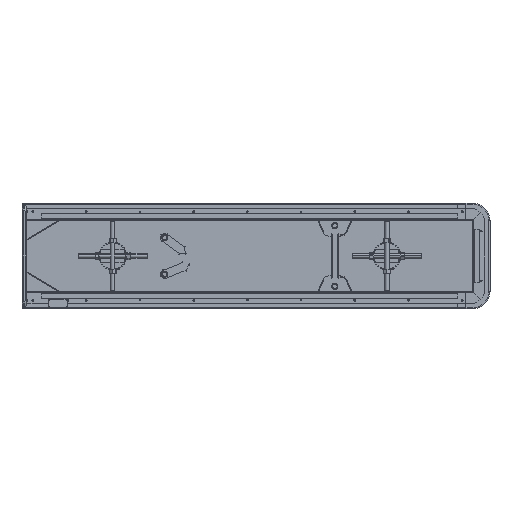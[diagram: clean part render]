
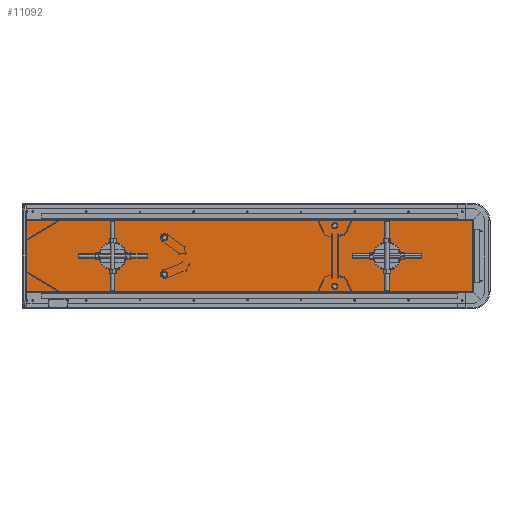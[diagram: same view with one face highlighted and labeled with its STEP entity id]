
A CAD part, front view. The second image highlights one B-rep face of the part: STEP entity #11092.
In plain terms, the highlighted planar face has unit normal (0.013, -1, 0).
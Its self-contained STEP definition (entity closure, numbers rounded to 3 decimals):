
#532 = CARTESIAN_POINT ( 'NONE',  ( -642.077, 523.784, -101.5 ) ) ;
#632 = PLANE ( 'NONE',  #42649 ) ;
#637 = EDGE_LOOP ( 'NONE', ( #17538, #26888 ) ) ;
#1235 = DIRECTION ( 'NONE',  ( 1., 0.013, 0. ) ) ;
#1352 = CIRCLE ( 'NONE', #2856, 4.05 ) ;
#2103 = ORIENTED_EDGE ( 'NONE', *, *, #43798, .T. ) ;
#2333 = DIRECTION ( 'NONE',  ( 1., 0.013, 0. ) ) ;
#2856 = AXIS2_PLACEMENT_3D ( 'NONE', #19795, #46439, #27401 ) ;
#2991 = VERTEX_POINT ( 'NONE', #47932 ) ;
#3929 = DIRECTION ( 'NONE',  ( -0.013, 1., 0. ) ) ;
#3956 = CARTESIAN_POINT ( 'NONE',  ( 244.852, 535.011, 87.5 ) ) ;
#4462 = DIRECTION ( 'NONE',  ( -0.013, 1., 0. ) ) ;
#4916 = CARTESIAN_POINT ( 'NONE',  ( -645.077, 523.746, -101.5 ) ) ;
#5473 = AXIS2_PLACEMENT_3D ( 'NONE', #28384, #39715, #43871 ) ;
#5496 = EDGE_CURVE ( 'NONE', #23423, #28040, #14848, .T. ) ;
#6643 = CARTESIAN_POINT ( 'NONE',  ( 244.852, 535.011, -87.5 ) ) ;
#7291 = VERTEX_POINT ( 'NONE', #532 ) ;
#7546 = VERTEX_POINT ( 'NONE', #8515 ) ;
#7675 = EDGE_LOOP ( 'NONE', ( #8060, #2103 ) ) ;
#7796 = DIRECTION ( 'NONE',  ( 1., 0.013, 0. ) ) ;
#7854 = VECTOR ( 'NONE', #1235, 1000. ) ;
#8060 = ORIENTED_EDGE ( 'NONE', *, *, #15563, .T. ) ;
#8224 = LINE ( 'NONE', #24990, #21307 ) ;
#8515 = CARTESIAN_POINT ( 'NONE',  ( -249.159, 528.758, 52.5 ) ) ;
#8606 = CIRCLE ( 'NONE', #39370, 4.05 ) ;
#8722 = EDGE_CURVE ( 'NONE', #7291, #48804, #8224, .T. ) ;
#9008 = CIRCLE ( 'NONE', #35278, 4.05 ) ;
#9199 = AXIS2_PLACEMENT_3D ( 'NONE', #23053, #3929, #7796 ) ;
#9520 = CARTESIAN_POINT ( 'NONE',  ( -241.059, 528.86, 52.5 ) ) ;
#10164 = EDGE_CURVE ( 'NONE', #19739, #2991, #38364, .T. ) ;
#10849 = VERTEX_POINT ( 'NONE', #31687 ) ;
#11092 = ADVANCED_FACE ( 'NONE', ( #13755, #34039, #20315, #31016, #17918 ), #632, .T. ) ;
#11096 = DIRECTION ( 'NONE',  ( 1., 0.013, 0. ) ) ;
#12314 = CARTESIAN_POINT ( 'NONE',  ( -0.379, 531.907, 0. ) ) ;
#12404 = EDGE_CURVE ( 'NONE', #10849, #30822, #28697, .T. ) ;
#12547 = AXIS2_PLACEMENT_3D ( 'NONE', #41202, #29560, #33737 ) ;
#12853 = CARTESIAN_POINT ( 'NONE',  ( 641.32, 540.03, -101.5 ) ) ;
#13350 = CIRCLE ( 'NONE', #5473, 4.05 ) ;
#13755 = FACE_BOUND ( 'NONE', #7675, .T. ) ;
#14123 = EDGE_CURVE ( 'NONE', #7546, #20640, #8606, .T. ) ;
#14323 = CARTESIAN_POINT ( 'NONE',  ( -245.109, 528.809, 52.5 ) ) ;
#14523 = VERTEX_POINT ( 'NONE', #46789 ) ;
#14848 = LINE ( 'NONE', #45238, #30964 ) ;
#14996 = EDGE_CURVE ( 'NONE', #7291, #23423, #17953, .T. ) ;
#15563 = EDGE_CURVE ( 'NONE', #24006, #14523, #9008, .T. ) ;
#16136 = DIRECTION ( 'NONE',  ( -1., -0.013, 0. ) ) ;
#16145 = DIRECTION ( 'NONE',  ( 0.013, -1., 0. ) ) ;
#16359 = EDGE_CURVE ( 'NONE', #28040, #48804, #25591, .T. ) ;
#16922 = EDGE_LOOP ( 'NONE', ( #36766, #25861 ) ) ;
#17506 = DIRECTION ( 'NONE',  ( -0.013, 1., 0. ) ) ;
#17538 = ORIENTED_EDGE ( 'NONE', *, *, #12404, .T. ) ;
#17677 = ORIENTED_EDGE ( 'NONE', *, *, #14996, .T. ) ;
#17710 = AXIS2_PLACEMENT_3D ( 'NONE', #26037, #41236, #11096 ) ;
#17918 = FACE_OUTER_BOUND ( 'NONE', #21699, .T. ) ;
#17953 = LINE ( 'NONE', #4916, #7854 ) ;
#19739 = VERTEX_POINT ( 'NONE', #38651 ) ;
#19795 = CARTESIAN_POINT ( 'NONE',  ( -245.109, 528.809, -52.5 ) ) ;
#20315 = FACE_BOUND ( 'NONE', #21166, .T. ) ;
#20640 = VERTEX_POINT ( 'NONE', #9520 ) ;
#20836 = CARTESIAN_POINT ( 'NONE',  ( -642.077, 523.784, 101.5 ) ) ;
#21166 = EDGE_LOOP ( 'NONE', ( #35290, #31903 ) ) ;
#21307 = VECTOR ( 'NONE', #47643, 1000. ) ;
#21699 = EDGE_LOOP ( 'NONE', ( #26102, #25088, #17677, #31999 ) ) ;
#21770 = DIRECTION ( 'NONE',  ( 1., 0.013, 0. ) ) ;
#22107 = DIRECTION ( 'NONE',  ( 0., 0., 1. ) ) ;
#23053 = CARTESIAN_POINT ( 'NONE',  ( -245.109, 528.809, 52.5 ) ) ;
#23113 = CARTESIAN_POINT ( 'NONE',  ( 642.249, 540.042, 101.5 ) ) ;
#23423 = VERTEX_POINT ( 'NONE', #12853 ) ;
#24006 = VERTEX_POINT ( 'NONE', #43872 ) ;
#24990 = CARTESIAN_POINT ( 'NONE',  ( -642.077, 523.784, -101.5 ) ) ;
#25088 = ORIENTED_EDGE ( 'NONE', *, *, #8722, .F. ) ;
#25591 = LINE ( 'NONE', #23113, #47088 ) ;
#25861 = ORIENTED_EDGE ( 'NONE', *, *, #14123, .T. ) ;
#26037 = CARTESIAN_POINT ( 'NONE',  ( -245.109, 528.809, -52.5 ) ) ;
#26102 = ORIENTED_EDGE ( 'NONE', *, *, #16359, .T. ) ;
#26888 = ORIENTED_EDGE ( 'NONE', *, *, #35171, .T. ) ;
#27103 = CARTESIAN_POINT ( 'NONE',  ( 240.802, 534.96, 87.5 ) ) ;
#27267 = DIRECTION ( 'NONE',  ( 0., 0., 1. ) ) ;
#27379 = AXIS2_PLACEMENT_3D ( 'NONE', #3956, #4462, #34614 ) ;
#27401 = DIRECTION ( 'NONE',  ( 1., 0.013, 0. ) ) ;
#28040 = VERTEX_POINT ( 'NONE', #46375 ) ;
#28384 = CARTESIAN_POINT ( 'NONE',  ( 244.852, 535.011, -87.5 ) ) ;
#28446 = EDGE_CURVE ( 'NONE', #2991, #19739, #1352, .T. ) ;
#28697 = CIRCLE ( 'NONE', #27379, 4.05 ) ;
#29560 = DIRECTION ( 'NONE',  ( -0.013, 1., 0. ) ) ;
#29595 = CIRCLE ( 'NONE', #9199, 4.05 ) ;
#30822 = VERTEX_POINT ( 'NONE', #27103 ) ;
#30964 = VECTOR ( 'NONE', #22107, 1000. ) ;
#31016 = FACE_BOUND ( 'NONE', #16922, .T. ) ;
#31687 = CARTESIAN_POINT ( 'NONE',  ( 248.901, 535.063, 87.5 ) ) ;
#31903 = ORIENTED_EDGE ( 'NONE', *, *, #10164, .T. ) ;
#31999 = ORIENTED_EDGE ( 'NONE', *, *, #5496, .T. ) ;
#32712 = EDGE_CURVE ( 'NONE', #20640, #7546, #29595, .T. ) ;
#33737 = DIRECTION ( 'NONE',  ( 1., 0.013, 0. ) ) ;
#34039 = FACE_BOUND ( 'NONE', #637, .T. ) ;
#34614 = DIRECTION ( 'NONE',  ( 1., 0.013, 0. ) ) ;
#35171 = EDGE_CURVE ( 'NONE', #30822, #10849, #49381, .T. ) ;
#35278 = AXIS2_PLACEMENT_3D ( 'NONE', #6643, #44717, #21770 ) ;
#35290 = ORIENTED_EDGE ( 'NONE', *, *, #28446, .T. ) ;
#36766 = ORIENTED_EDGE ( 'NONE', *, *, #32712, .T. ) ;
#38364 = CIRCLE ( 'NONE', #17710, 4.05 ) ;
#38651 = CARTESIAN_POINT ( 'NONE',  ( -249.159, 528.758, -52.5 ) ) ;
#39370 = AXIS2_PLACEMENT_3D ( 'NONE', #14323, #17506, #2333 ) ;
#39715 = DIRECTION ( 'NONE',  ( -0.013, 1., 0. ) ) ;
#41202 = CARTESIAN_POINT ( 'NONE',  ( 244.852, 535.011, 87.5 ) ) ;
#41236 = DIRECTION ( 'NONE',  ( -0.013, 1., 0. ) ) ;
#42649 = AXIS2_PLACEMENT_3D ( 'NONE', #12314, #16145, #27267 ) ;
#43798 = EDGE_CURVE ( 'NONE', #14523, #24006, #13350, .T. ) ;
#43871 = DIRECTION ( 'NONE',  ( 1., 0.013, 0. ) ) ;
#43872 = CARTESIAN_POINT ( 'NONE',  ( 248.901, 535.063, -87.5 ) ) ;
#44717 = DIRECTION ( 'NONE',  ( -0.013, 1., 0. ) ) ;
#45238 = CARTESIAN_POINT ( 'NONE',  ( 641.32, 540.03, -102.429 ) ) ;
#46375 = CARTESIAN_POINT ( 'NONE',  ( 641.32, 540.03, 101.5 ) ) ;
#46439 = DIRECTION ( 'NONE',  ( -0.013, 1., 0. ) ) ;
#46789 = CARTESIAN_POINT ( 'NONE',  ( 240.802, 534.96, -87.5 ) ) ;
#47088 = VECTOR ( 'NONE', #16136, 1000. ) ;
#47643 = DIRECTION ( 'NONE',  ( 0., 0., 1. ) ) ;
#47932 = CARTESIAN_POINT ( 'NONE',  ( -241.059, 528.86, -52.5 ) ) ;
#48804 = VERTEX_POINT ( 'NONE', #20836 ) ;
#49381 = CIRCLE ( 'NONE', #12547, 4.05 ) ;
